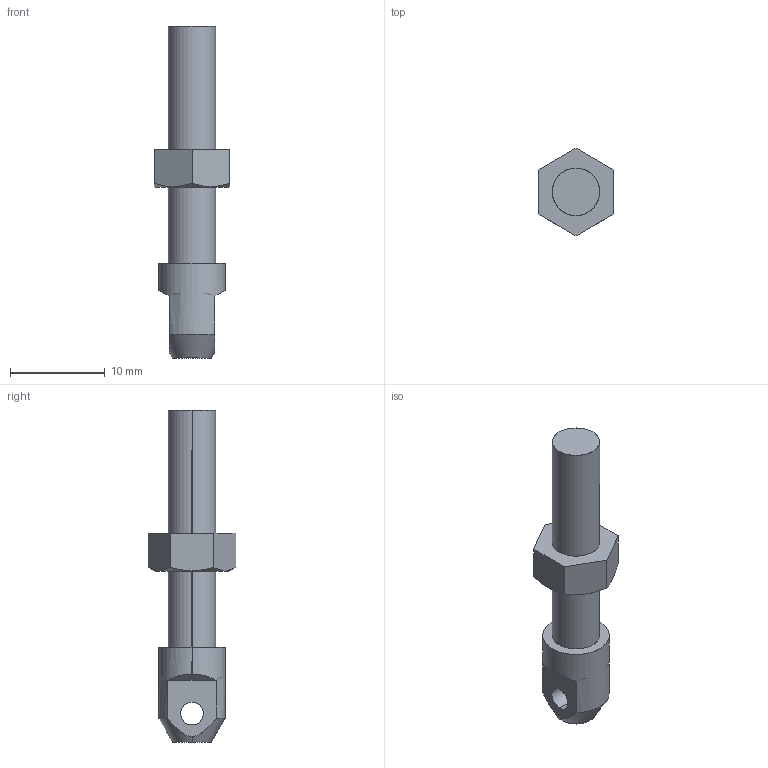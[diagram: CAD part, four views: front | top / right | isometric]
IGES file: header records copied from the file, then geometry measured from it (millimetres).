
Start section: SolidWorks IGES file using analytic representation for surfaces
Global section: file name: X:\11_SW2020-Inv2020\00_全2021-11新製品まで\c\CBS1-25-SUS\cbs1-25-sus.IGS; native system: SolidWorks 2020; preprocessor: SolidWorks 2020; author: ImaoCorp; date: 211026.084640; units: millimetre
Bounding box: 8 x 9.24 x 35 mm (x, y, z)
Surface area: 924.6 mm2 (no closed solid volume)
Topology: 0 solids, 0 shells, 27 faces, 498 edges, 498 vertices
Faces by surface type: bspline 15, revolution 12
